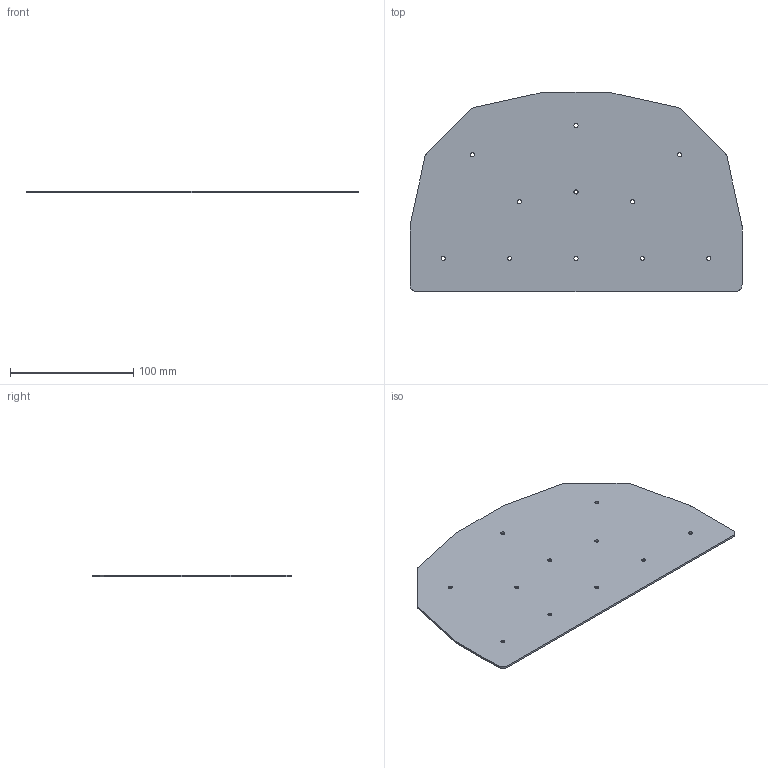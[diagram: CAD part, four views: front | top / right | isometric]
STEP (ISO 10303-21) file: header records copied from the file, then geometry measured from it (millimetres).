
FILE_DESCRIPTION (( 'STEP AP214' ), '1' );
FILE_NAME ('DRP-002-0002-02.step', '2010-06-23T19:05:28', ( '' ), ( '' ), 'SwSTEP 2.0', 'SolidWorks 2010', '' );
FILE_SCHEMA (( 'AUTOMOTIVE_DESIGN' ));
Length unit declared in the file: inch
Products named in the file (1): DRP-002-0002-02
Bounding box: 269.88 x 161.93 x 1.59 mm (x, y, z)
Volume: 61073.2 mm3; surface area: 78344.6 mm2
Topology: 1 solids, 1 shells, 44 faces, 126 edges, 84 vertices
Faces by surface type: cylinder 32, plane 12
Entity records: 1558 total; most frequent: DIRECTION 280, CARTESIAN_POINT 255, ORIENTED_EDGE 252, EDGE_CURVE 126, AXIS2_PLACEMENT_3D 109, VERTEX_POINT 84, EDGE_LOOP 66, CIRCLE 64
